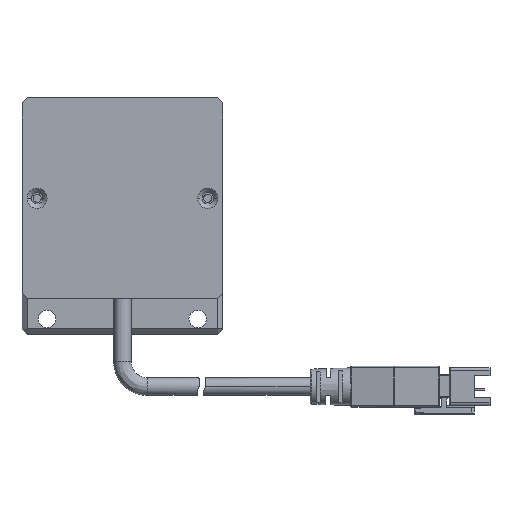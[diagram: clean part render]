
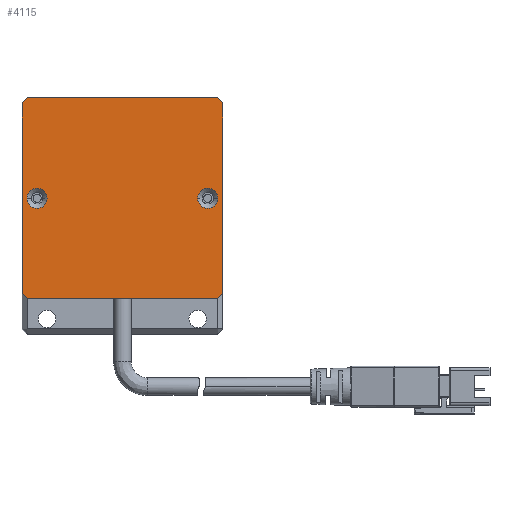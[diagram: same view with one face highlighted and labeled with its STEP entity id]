
A CAD part, top view. The second image highlights one B-rep face of the part: STEP entity #4115.
In plain terms, the highlighted planar face has unit normal (0, 0, 1).
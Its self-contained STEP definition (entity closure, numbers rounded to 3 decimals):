
#53 = DIRECTION ( 'NONE',  ( -0.707, 0.707, 0. ) ) ;
#77 = DIRECTION ( 'NONE',  ( -1., 0., 0. ) ) ;
#86 = VECTOR ( 'NONE', #4789, 1000. ) ;
#120 = CARTESIAN_POINT ( 'NONE',  ( -20., 20., 20. ) ) ;
#215 = EDGE_LOOP ( 'NONE', ( #2883, #5403 ) ) ;
#323 = DIRECTION ( 'NONE',  ( 1., 0., 0. ) ) ;
#412 = DIRECTION ( 'NONE',  ( 0., -1., 0. ) ) ;
#523 = ORIENTED_EDGE ( 'NONE', *, *, #6442, .T. ) ;
#592 = EDGE_CURVE ( 'NONE', #5626, #2757, #3466, .T. ) ;
#709 = VECTOR ( 'NONE', #3440, 1000. ) ;
#729 = DIRECTION ( 'NONE',  ( 0.707, -0.707, 0. ) ) ;
#927 = CARTESIAN_POINT ( 'NONE',  ( -15., 0., 20. ) ) ;
#1062 = CARTESIAN_POINT ( 'NONE',  ( -17., 0., 20. ) ) ;
#1195 = CARTESIAN_POINT ( 'NONE',  ( -19., -20., 20. ) ) ;
#1320 = LINE ( 'NONE', #7903, #4268 ) ;
#1331 = CARTESIAN_POINT ( 'NONE',  ( -20., 19., 20. ) ) ;
#1416 = VECTOR ( 'NONE', #2838, 1000. ) ;
#1471 = ORIENTED_EDGE ( 'NONE', *, *, #6825, .F. ) ;
#1505 = AXIS2_PLACEMENT_3D ( 'NONE', #4058, #7263, #77 ) ;
#1615 = AXIS2_PLACEMENT_3D ( 'NONE', #3318, #2000, #2081 ) ;
#1663 = VERTEX_POINT ( 'NONE', #5569 ) ;
#1839 = VERTEX_POINT ( 'NONE', #5784 ) ;
#1965 = ORIENTED_EDGE ( 'NONE', *, *, #592, .T. ) ;
#1970 = EDGE_CURVE ( 'NONE', #3633, #5626, #1320, .T. ) ;
#2000 = DIRECTION ( 'NONE',  ( 0., 0., 1. ) ) ;
#2081 = DIRECTION ( 'NONE',  ( 1., 0., 0. ) ) ;
#2227 = FACE_BOUND ( 'NONE', #4429, .T. ) ;
#2288 = ORIENTED_EDGE ( 'NONE', *, *, #1970, .T. ) ;
#2290 = DIRECTION ( 'NONE',  ( 0., 0., 1. ) ) ;
#2362 = CIRCLE ( 'NONE', #1615, 2. ) ;
#2476 = EDGE_CURVE ( 'NONE', #7631, #1839, #3856, .T. ) ;
#2529 = CARTESIAN_POINT ( 'NONE',  ( 20., -19., 20. ) ) ;
#2594 = ORIENTED_EDGE ( 'NONE', *, *, #7639, .T. ) ;
#2635 = FACE_OUTER_BOUND ( 'NONE', #7242, .T. ) ;
#2675 = CARTESIAN_POINT ( 'NONE',  ( 17., 0., 20. ) ) ;
#2757 = VERTEX_POINT ( 'NONE', #6592 ) ;
#2795 = VECTOR ( 'NONE', #5791, 1000. ) ;
#2838 = DIRECTION ( 'NONE',  ( 0., 1., 0. ) ) ;
#2883 = ORIENTED_EDGE ( 'NONE', *, *, #8145, .F. ) ;
#2908 = VERTEX_POINT ( 'NONE', #927 ) ;
#2999 = VECTOR ( 'NONE', #729, 1000. ) ;
#3016 = CIRCLE ( 'NONE', #8309, 2. ) ;
#3130 = LINE ( 'NONE', #8016, #1416 ) ;
#3224 = EDGE_CURVE ( 'NONE', #5628, #2908, #4966, .T. ) ;
#3253 = ORIENTED_EDGE ( 'NONE', *, *, #6517, .T. ) ;
#3318 = CARTESIAN_POINT ( 'NONE',  ( -17., 0., 20. ) ) ;
#3355 = CARTESIAN_POINT ( 'NONE',  ( 15., 0., 20. ) ) ;
#3440 = DIRECTION ( 'NONE',  ( -0.707, -0.707, 0. ) ) ;
#3466 = LINE ( 'NONE', #120, #86 ) ;
#3633 = VERTEX_POINT ( 'NONE', #5193 ) ;
#3671 = CARTESIAN_POINT ( 'NONE',  ( -20., -20., 20. ) ) ;
#3682 = EDGE_CURVE ( 'NONE', #5678, #8506, #3016, .T. ) ;
#3856 = LINE ( 'NONE', #5664, #7452 ) ;
#3874 = ORIENTED_EDGE ( 'NONE', *, *, #4666, .T. ) ;
#3876 = DIRECTION ( 'NONE',  ( 1., 0., 0. ) ) ;
#4058 = CARTESIAN_POINT ( 'NONE',  ( 0., 0., 20. ) ) ;
#4107 = CARTESIAN_POINT ( 'NONE',  ( 19., 20., 20. ) ) ;
#4115 = ADVANCED_FACE ( 'NONE', ( #4485, #2227, #2635 ), #6027, .F. ) ;
#4125 = AXIS2_PLACEMENT_3D ( 'NONE', #5299, #8074, #5357 ) ;
#4268 = VECTOR ( 'NONE', #53, 1000. ) ;
#4281 = DIRECTION ( 'NONE',  ( 1., 0., 0. ) ) ;
#4429 = EDGE_LOOP ( 'NONE', ( #1471, #7674 ) ) ;
#4485 = FACE_BOUND ( 'NONE', #215, .T. ) ;
#4494 = VERTEX_POINT ( 'NONE', #1195 ) ;
#4620 = AXIS2_PLACEMENT_3D ( 'NONE', #1062, #2290, #323 ) ;
#4663 = CARTESIAN_POINT ( 'NONE',  ( -19., -20., 20. ) ) ;
#4666 = EDGE_CURVE ( 'NONE', #4922, #3633, #3130, .T. ) ;
#4789 = DIRECTION ( 'NONE',  ( -1., 0., 0. ) ) ;
#4922 = VERTEX_POINT ( 'NONE', #2529 ) ;
#4966 = CIRCLE ( 'NONE', #4620, 2. ) ;
#5111 = CARTESIAN_POINT ( 'NONE',  ( 20., -19., 20. ) ) ;
#5193 = CARTESIAN_POINT ( 'NONE',  ( 20., 19., 20. ) ) ;
#5296 = CARTESIAN_POINT ( 'NONE',  ( 19., 0., 20. ) ) ;
#5299 = CARTESIAN_POINT ( 'NONE',  ( 17., 0., 20. ) ) ;
#5357 = DIRECTION ( 'NONE',  ( 1., 0., 0. ) ) ;
#5403 = ORIENTED_EDGE ( 'NONE', *, *, #3224, .F. ) ;
#5569 = CARTESIAN_POINT ( 'NONE',  ( 19., -20., 20. ) ) ;
#5626 = VERTEX_POINT ( 'NONE', #4107 ) ;
#5628 = VERTEX_POINT ( 'NONE', #6024 ) ;
#5664 = CARTESIAN_POINT ( 'NONE',  ( -20., -20., 20. ) ) ;
#5678 = VERTEX_POINT ( 'NONE', #3355 ) ;
#5784 = CARTESIAN_POINT ( 'NONE',  ( -20., -19., 20. ) ) ;
#5791 = DIRECTION ( 'NONE',  ( 0.707, 0.707, 0. ) ) ;
#5981 = CIRCLE ( 'NONE', #4125, 2. ) ;
#6024 = CARTESIAN_POINT ( 'NONE',  ( -19., 0., 20. ) ) ;
#6027 = PLANE ( 'NONE',  #1505 ) ;
#6091 = ORIENTED_EDGE ( 'NONE', *, *, #2476, .T. ) ;
#6442 = EDGE_CURVE ( 'NONE', #1839, #4494, #6928, .T. ) ;
#6497 = CARTESIAN_POINT ( 'NONE',  ( -20., 19., 20. ) ) ;
#6517 = EDGE_CURVE ( 'NONE', #4494, #1663, #8148, .T. ) ;
#6568 = DIRECTION ( 'NONE',  ( 0., 0., 1. ) ) ;
#6592 = CARTESIAN_POINT ( 'NONE',  ( -19., 20., 20. ) ) ;
#6656 = EDGE_CURVE ( 'NONE', #1663, #4922, #7626, .T. ) ;
#6825 = EDGE_CURVE ( 'NONE', #8506, #5678, #5981, .T. ) ;
#6928 = LINE ( 'NONE', #4663, #2999 ) ;
#7242 = EDGE_LOOP ( 'NONE', ( #6091, #523, #3253, #7822, #3874, #2288, #1965, #2594 ) ) ;
#7263 = DIRECTION ( 'NONE',  ( 0., 0., -1. ) ) ;
#7399 = LINE ( 'NONE', #1331, #709 ) ;
#7452 = VECTOR ( 'NONE', #412, 1000. ) ;
#7626 = LINE ( 'NONE', #5111, #2795 ) ;
#7631 = VERTEX_POINT ( 'NONE', #6497 ) ;
#7639 = EDGE_CURVE ( 'NONE', #2757, #7631, #7399, .T. ) ;
#7674 = ORIENTED_EDGE ( 'NONE', *, *, #3682, .F. ) ;
#7822 = ORIENTED_EDGE ( 'NONE', *, *, #6656, .T. ) ;
#7903 = CARTESIAN_POINT ( 'NONE',  ( 19., 20., 20. ) ) ;
#8016 = CARTESIAN_POINT ( 'NONE',  ( 20., -20., 20. ) ) ;
#8042 = VECTOR ( 'NONE', #4281, 1000. ) ;
#8074 = DIRECTION ( 'NONE',  ( 0., 0., 1. ) ) ;
#8145 = EDGE_CURVE ( 'NONE', #2908, #5628, #2362, .T. ) ;
#8148 = LINE ( 'NONE', #3671, #8042 ) ;
#8309 = AXIS2_PLACEMENT_3D ( 'NONE', #2675, #6568, #3876 ) ;
#8506 = VERTEX_POINT ( 'NONE', #5296 ) ;
